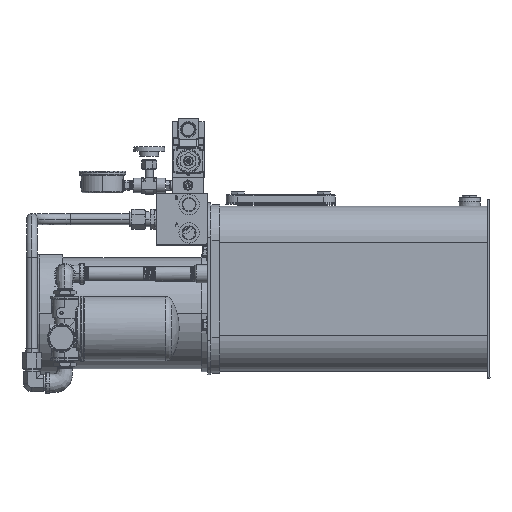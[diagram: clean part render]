
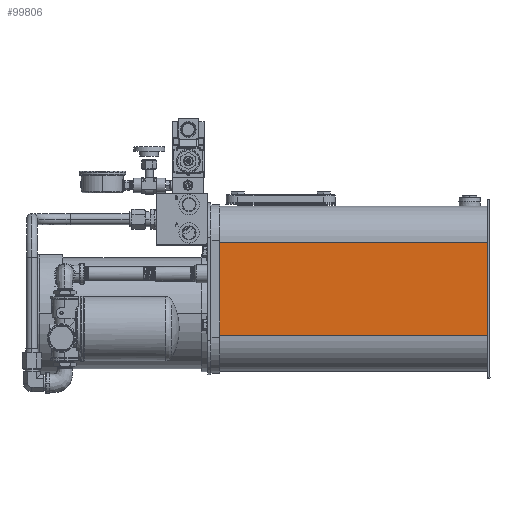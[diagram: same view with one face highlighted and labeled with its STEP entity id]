
A CAD part, top view. The second image highlights one B-rep face of the part: STEP entity #99806.
In plain terms, the highlighted planar face has unit normal (0, 0, 1).
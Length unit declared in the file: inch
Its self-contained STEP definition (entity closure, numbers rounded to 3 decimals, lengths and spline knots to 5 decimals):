
#6351 = LINE ( 'NONE', #109039, #44396 ) ;
#10831 = CARTESIAN_POINT ( 'NONE',  ( -4.00815, 13.14863, 18.13367 ) ) ;
#13581 = DIRECTION ( 'NONE',  ( 1., 0., 0. ) ) ;
#15737 = VECTOR ( 'NONE', #13581, 39.37008 ) ;
#22787 = DIRECTION ( 'NONE',  ( 0., -1., 0. ) ) ;
#31857 = CARTESIAN_POINT ( 'NONE',  ( 11.99185, 11.02903, 18.13367 ) ) ;
#35402 = ORIENTED_EDGE ( 'NONE', *, *, #65212, .F. ) ;
#38759 = LINE ( 'NONE', #127934, #75784 ) ;
#41105 = VERTEX_POINT ( 'NONE', #180062 ) ;
#43225 = VERTEX_POINT ( 'NONE', #101210 ) ;
#44396 = VECTOR ( 'NONE', #22787, 39.37008 ) ;
#44828 = ORIENTED_EDGE ( 'NONE', *, *, #164707, .F. ) ;
#58602 = ORIENTED_EDGE ( 'NONE', *, *, #147520, .F. ) ;
#63181 = PLANE ( 'NONE',  #181776 ) ;
#65212 = EDGE_CURVE ( 'NONE', #185071, #43225, #6351, .T. ) ;
#69770 = DIRECTION ( 'NONE',  ( 0., 1., 0. ) ) ;
#74401 = CARTESIAN_POINT ( 'NONE',  ( -4.00815, 5.64323, 18.13367 ) ) ;
#75784 = VECTOR ( 'NONE', #69770, 39.37008 ) ;
#79391 = EDGE_LOOP ( 'NONE', ( #35402, #58602, #44828, #158957 ) ) ;
#84968 = EDGE_CURVE ( 'NONE', #117334, #43225, #90201, .T. ) ;
#90201 = LINE ( 'NONE', #188395, #111550 ) ;
#99806 = ADVANCED_FACE ( 'NONE', ( #135863 ), #63181, .F. ) ;
#101210 = CARTESIAN_POINT ( 'NONE',  ( 11.99185, 5.64323, 18.13367 ) ) ;
#104601 = LINE ( 'NONE', #115341, #15737 ) ;
#109039 = CARTESIAN_POINT ( 'NONE',  ( 11.99185, 8.33613, 18.13367 ) ) ;
#111550 = VECTOR ( 'NONE', #149304, 39.37008 ) ;
#115341 = CARTESIAN_POINT ( 'NONE',  ( -4.00815, 11.02903, 18.13367 ) ) ;
#117334 = VERTEX_POINT ( 'NONE', #74401 ) ;
#127934 = CARTESIAN_POINT ( 'NONE',  ( -4.00815, 13.14863, 18.13367 ) ) ;
#135863 = FACE_OUTER_BOUND ( 'NONE', #79391, .T. ) ;
#147520 = EDGE_CURVE ( 'NONE', #41105, #185071, #104601, .T. ) ;
#149304 = DIRECTION ( 'NONE',  ( 1., 0., 0. ) ) ;
#158079 = DIRECTION ( 'NONE',  ( 0., 0., -1. ) ) ;
#158957 = ORIENTED_EDGE ( 'NONE', *, *, #84968, .T. ) ;
#164707 = EDGE_CURVE ( 'NONE', #117334, #41105, #38759, .T. ) ;
#170709 = DIRECTION ( 'NONE',  ( 0., -1., 0. ) ) ;
#180062 = CARTESIAN_POINT ( 'NONE',  ( -4.00815, 11.02903, 18.13367 ) ) ;
#181776 = AXIS2_PLACEMENT_3D ( 'NONE', #10831, #158079, #170709 ) ;
#185071 = VERTEX_POINT ( 'NONE', #31857 ) ;
#188395 = CARTESIAN_POINT ( 'NONE',  ( -4.00815, 5.64323, 18.13367 ) ) ;
